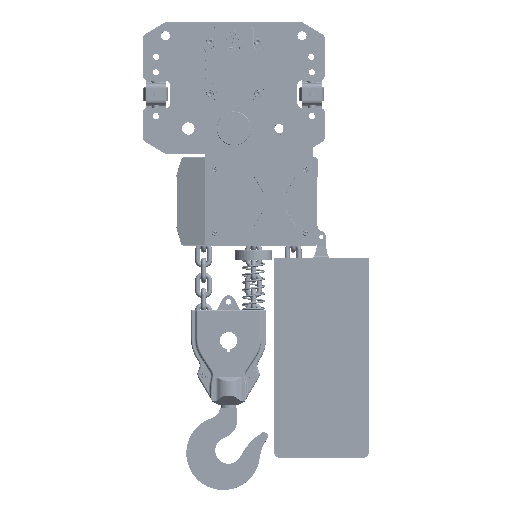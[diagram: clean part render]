
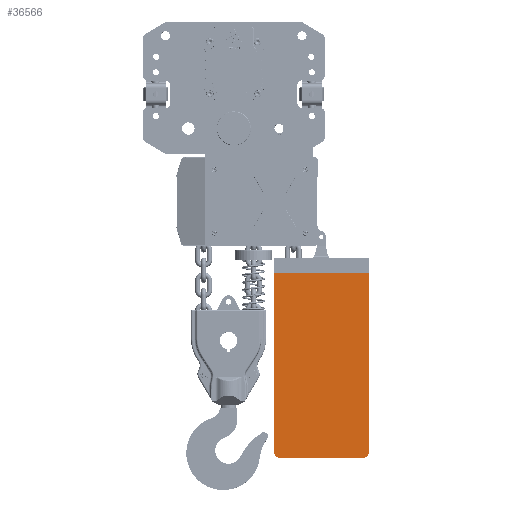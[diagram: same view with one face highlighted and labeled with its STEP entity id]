
A CAD part, top view. The second image highlights one B-rep face of the part: STEP entity #36566.
In plain terms, the highlighted planar face has unit normal (0, 0, 1).
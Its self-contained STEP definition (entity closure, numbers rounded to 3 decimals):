
#5092=LINE('',#164752,#13397);
#5094=LINE('',#164755,#13399);
#5095=LINE('',#164758,#13400);
#5096=LINE('',#164759,#13401);
#13397=VECTOR('',#128591,1.);
#13399=VECTOR('',#128595,1.);
#13400=VECTOR('',#128596,1.);
#13401=VECTOR('',#128597,1.);
#27928=PLANE('',#117103);
#30444=FACE_OUTER_BOUND('',#45704,.T.);
#36566=ADVANCED_FACE('',(#30444),#27928,.T.);
#45704=EDGE_LOOP('',(#54866,#54867,#54868,#54869,#54870,#54871));
#54866=ORIENTED_EDGE('',*,*,#96751,.F.);
#54867=ORIENTED_EDGE('',*,*,#96752,.F.);
#54868=ORIENTED_EDGE('',*,*,#96747,.T.);
#54869=ORIENTED_EDGE('',*,*,#96749,.T.);
#54870=ORIENTED_EDGE('',*,*,#96741,.T.);
#54871=ORIENTED_EDGE('',*,*,#96753,.T.);
#86046=VERTEX_POINT('',#164735);
#86047=VERTEX_POINT('',#164736);
#86052=VERTEX_POINT('',#164747);
#86053=VERTEX_POINT('',#164749);
#86054=VERTEX_POINT('',#164756);
#86055=VERTEX_POINT('',#164757);
#96741=EDGE_CURVE('',#86046,#86047,#112298,.T.);
#96747=EDGE_CURVE('',#86053,#86052,#112301,.T.);
#96749=EDGE_CURVE('',#86052,#86046,#5092,.T.);
#96751=EDGE_CURVE('',#86054,#86055,#5094,.T.);
#96752=EDGE_CURVE('',#86053,#86054,#5095,.T.);
#96753=EDGE_CURVE('',#86047,#86055,#5096,.T.);
#112298=CIRCLE('',#117096,15.);
#112301=CIRCLE('',#117100,15.);
#117096=AXIS2_PLACEMENT_3D('',#164734,#128575,#128576);
#117100=AXIS2_PLACEMENT_3D('',#164748,#128586,#128587);
#117103=AXIS2_PLACEMENT_3D('',#164760,#128598,#128599);
#128575=DIRECTION('',(0.,0.,1.));
#128576=DIRECTION('',(1.,0.,0.));
#128586=DIRECTION('',(0.,0.,1.));
#128587=DIRECTION('',(1.,0.,0.));
#128591=DIRECTION('',(1.,0.,0.));
#128595=DIRECTION('',(1.,0.,0.));
#128596=DIRECTION('',(0.,1.,0.));
#128597=DIRECTION('',(0.,1.,0.));
#128598=DIRECTION('',(0.,0.,1.));
#128599=DIRECTION('',(-1.,0.,0.));
#164734=CARTESIAN_POINT('',(1909.312,-249.604,196.225));
#164735=CARTESIAN_POINT('',(1909.312,-264.604,196.225));
#164736=CARTESIAN_POINT('',(1924.312,-249.604,196.225));
#164747=CARTESIAN_POINT('',(1729.812,-264.604,196.225));
#164748=CARTESIAN_POINT('',(1729.812,-249.604,196.225));
#164749=CARTESIAN_POINT('',(1714.812,-249.604,196.225));
#164752=CARTESIAN_POINT('',(1742.812,-264.604,196.225));
#164755=CARTESIAN_POINT('',(1744.812,143.396,196.225));
#164756=CARTESIAN_POINT('',(1714.812,143.396,196.225));
#164757=CARTESIAN_POINT('',(1924.312,143.396,196.225));
#164758=CARTESIAN_POINT('',(1714.812,941.888,196.225));
#164759=CARTESIAN_POINT('',(1924.312,170.396,196.225));
#164760=CARTESIAN_POINT('',(1744.812,170.396,196.225));
